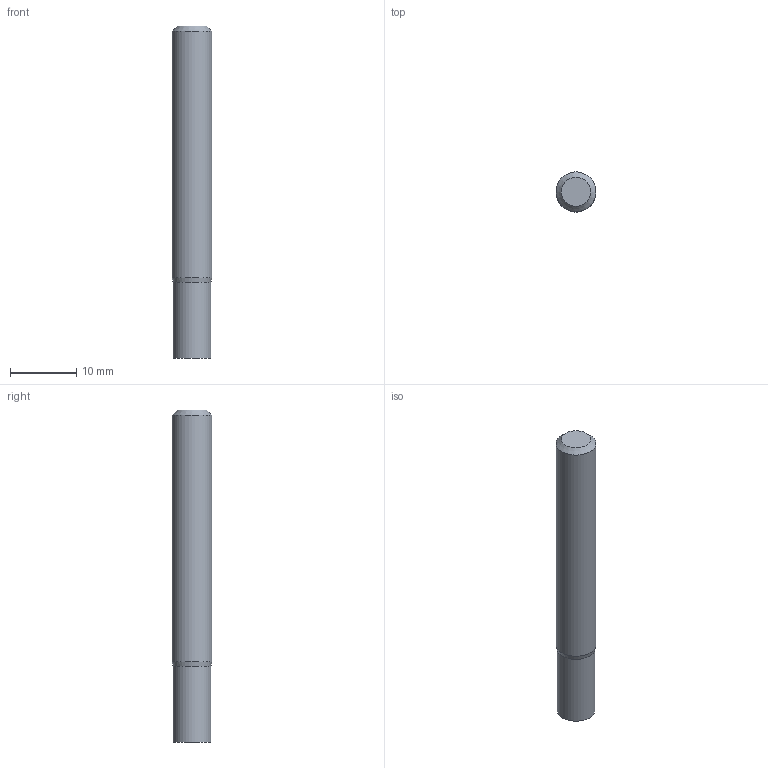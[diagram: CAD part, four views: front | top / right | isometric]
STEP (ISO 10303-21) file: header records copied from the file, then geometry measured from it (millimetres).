
FILE_DESCRIPTION((''),'2;1');
FILE_NAME('C:\Users\nsx150\AppData\Local\Temp\Mastercam 2021\E36A1X9CCL\TEMP.step','2023-04-21T15:13:15',(''),(''),'STEP Write','Mastercam 2021 ... CNC Software, Inc.','');
FILE_SCHEMA(('AUTOMOTIVE_DESIGN'));
Length unit declared in the file: millimetre
Products named in the file (1): None
Bounding box: 6 x 6 x 50 mm (x, y, z)
Volume: 1375.8 mm3; surface area: 1026.9 mm2
Topology: 2 solids, 2 shells, 8 faces, 10 edges, 6 vertices
Faces by surface type: plane 4, cylinder 2, cone 2
Full cylindrical faces by diameter (mm): 5.7 x1, 6 x1
Entity records: 190 total; most frequent: DIRECTION 32, CARTESIAN_POINT 22, AXIS2_PLACEMENT_3D 16, ORIENTED_EDGE 12, EDGE_LOOP 12, STYLED_ITEM 11, ADVANCED_FACE 8, VERTEX_POINT 6
